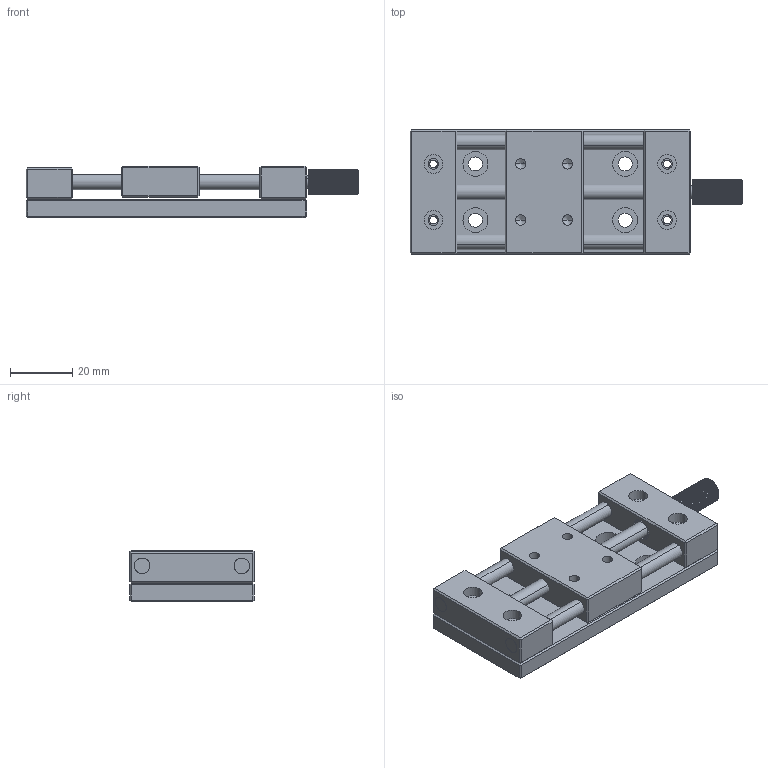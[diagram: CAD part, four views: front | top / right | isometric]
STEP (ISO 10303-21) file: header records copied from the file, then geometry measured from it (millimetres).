
FILE_DESCRIPTION (( 'STEP AP203' ), '1' );
FILE_NAME ('手动位移台：PT-SD35.STEP', '2019-02-14T07:08:49', ( 'SALES' ), ( 'Microsoft' ), 'SwSTEP 2.0', 'SolidWorks 2016', '' );
FILE_SCHEMA (( 'CONFIG_CONTROL_DESIGN' ));
Length unit declared in the file: millimetre
Products named in the file (9): 忒雄弇痄怢ㄩPT-SD35; 菁釱; 綴粣創釱; ヶ粣創釱; 絳寢; 佪話; 忒謫; 怢醱; deep groove ball bearings gb_Rolling bearings 617-4 GB 276-94
Assembly tree (10 placements, depth 2):
  忒雄弇痄怢ㄩPT-SD35
    菁釱
    綴粣創釱
    ヶ粣創釱
    絳寢  x2
    忒謫
    佪話
    怢醱
    deep groove ball bearings gb_Rolling bearings 617-4 GB 276-94  x2
Bounding box: 106.5 x 40 x 16.5 mm (x, y, z)
Volume: 44464.4 mm3; surface area: 25213 mm2
Topology: 10 solids, 10 shells, 733 faces, 2541 edges, 1674 vertices
Faces by surface type: cylinder 355, torus 148, plane 134, sphere 84, cone 12
Entity records: 27052 total; most frequent: CARTESIAN_POINT 10745, ORIENTED_EDGE 3472, DIRECTION 2959, EDGE_CURVE 1736, AXIS2_PLACEMENT_3D 1207, VERTEX_POINT 1133, EDGE_LOOP 659, CIRCLE 597
